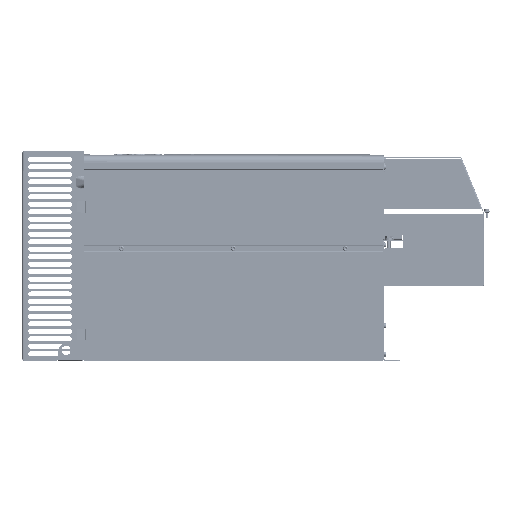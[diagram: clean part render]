
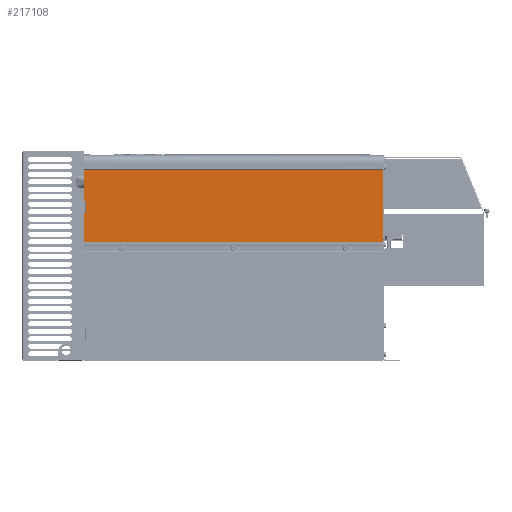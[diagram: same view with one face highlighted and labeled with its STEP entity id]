
A CAD part, left-side view. The second image highlights one B-rep face of the part: STEP entity #217108.
In plain terms, the highlighted planar face has unit normal (-1, 0, 0).
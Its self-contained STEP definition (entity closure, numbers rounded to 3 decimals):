
#12162=DIRECTION('',(0.,0.,-1.));
#12163=VECTOR('',#12162,12.);
#12164=CARTESIAN_POINT('',(-151.5,236.875,255.5));
#12165=LINE('',#12164,#12163);
#22767=DIRECTION('',(0.,-1.,0.));
#22768=VECTOR('',#22767,480.005);
#22769=CARTESIAN_POINT('',(-151.5,236.875,191.6));
#22770=LINE('',#22769,#22768);
#22774=DIRECTION('',(0.,0.,-1.));
#22775=VECTOR('',#22774,51.9);
#22776=CARTESIAN_POINT('',(-151.5,236.875,243.5));
#22777=LINE('',#22776,#22775);
#22781=DIRECTION('',(0.,0.,-1.));
#22782=VECTOR('',#22781,51.5);
#22783=CARTESIAN_POINT('',(-151.5,236.875,307.));
#22784=LINE('',#22783,#22782);
#22788=DIRECTION('',(0.,1.,0.));
#22789=VECTOR('',#22788,480.005);
#22790=CARTESIAN_POINT('',(-151.5,-243.13,307.));
#22791=LINE('',#22790,#22789);
#22795=DIRECTION('',(0.,0.,-1.));
#22796=VECTOR('',#22795,112.5);
#22797=CARTESIAN_POINT('',(-151.5,-243.13,307.));
#22798=LINE('',#22797,#22796);
#22802=DIRECTION('',(0.,0.,-1.));
#22803=VECTOR('',#22802,0.1);
#22804=CARTESIAN_POINT('',(-151.5,-243.13,191.7));
#22805=LINE('',#22804,#22803);
#39590=DIRECTION('',(0.,0.,1.));
#39591=VECTOR('',#39590,2.8);
#39592=CARTESIAN_POINT('',(-151.5,-243.13,191.7));
#39593=LINE('',#39592,#39591);
#180305=CARTESIAN_POINT('',(-151.5,236.875,243.5));
#180306=VERTEX_POINT('',#180305);
#180351=CARTESIAN_POINT('',(-151.5,236.875,255.5));
#180352=VERTEX_POINT('',#180351);
#180996=CARTESIAN_POINT('',(-151.5,-243.13,194.5));
#180998=VERTEX_POINT('',#180996);
#184196=CARTESIAN_POINT('',(-151.5,-243.13,307.));
#184197=CARTESIAN_POINT('',(-151.5,236.875,307.));
#184198=VERTEX_POINT('',#184196);
#184199=VERTEX_POINT('',#184197);
#184204=CARTESIAN_POINT('',(-151.5,236.875,191.6));
#184205=CARTESIAN_POINT('',(-151.5,-243.13,191.6));
#184206=VERTEX_POINT('',#184204);
#184207=VERTEX_POINT('',#184205);
#194886=CARTESIAN_POINT('',(-151.5,-243.13,191.7));
#194888=VERTEX_POINT('',#194886);
#217087=CARTESIAN_POINT('',(-151.5,236.875,318.2));
#217088=DIRECTION('',(-1.,0.,0.));
#217089=DIRECTION('',(0.,0.,-1.));
#217090=AXIS2_PLACEMENT_3D('',#217087,#217088,#217089);
#217091=PLANE('',#217090);
#217093=ORIENTED_EDGE('',*,*,#217092,.F.);
#217095=ORIENTED_EDGE('',*,*,#217094,.F.);
#217096=ORIENTED_EDGE('',*,*,#208455,.F.);
#217098=ORIENTED_EDGE('',*,*,#217097,.F.);
#217100=ORIENTED_EDGE('',*,*,#217099,.F.);
#217102=ORIENTED_EDGE('',*,*,#217101,.T.);
#217104=ORIENTED_EDGE('',*,*,#217103,.F.);
#217105=ORIENTED_EDGE('',*,*,#214928,.T.);
#217106=EDGE_LOOP('',(#217093,#217095,#217096,#217098,#217100,#217102,#217104,
#217105));
#217107=FACE_OUTER_BOUND('',#217106,.F.);
#217108=ADVANCED_FACE('',(#217107),#217091,.T.);
#208455=EDGE_CURVE('',#180352,#180306,#12165,.T.);
#214928=EDGE_CURVE('',#194888,#184207,#22805,.T.);
#217092=EDGE_CURVE('',#184206,#184207,#22770,.T.);
#217094=EDGE_CURVE('',#180306,#184206,#22777,.T.);
#217097=EDGE_CURVE('',#184199,#180352,#22784,.T.);
#217099=EDGE_CURVE('',#184198,#184199,#22791,.T.);
#217101=EDGE_CURVE('',#184198,#180998,#22798,.T.);
#217103=EDGE_CURVE('',#194888,#180998,#39593,.T.);
